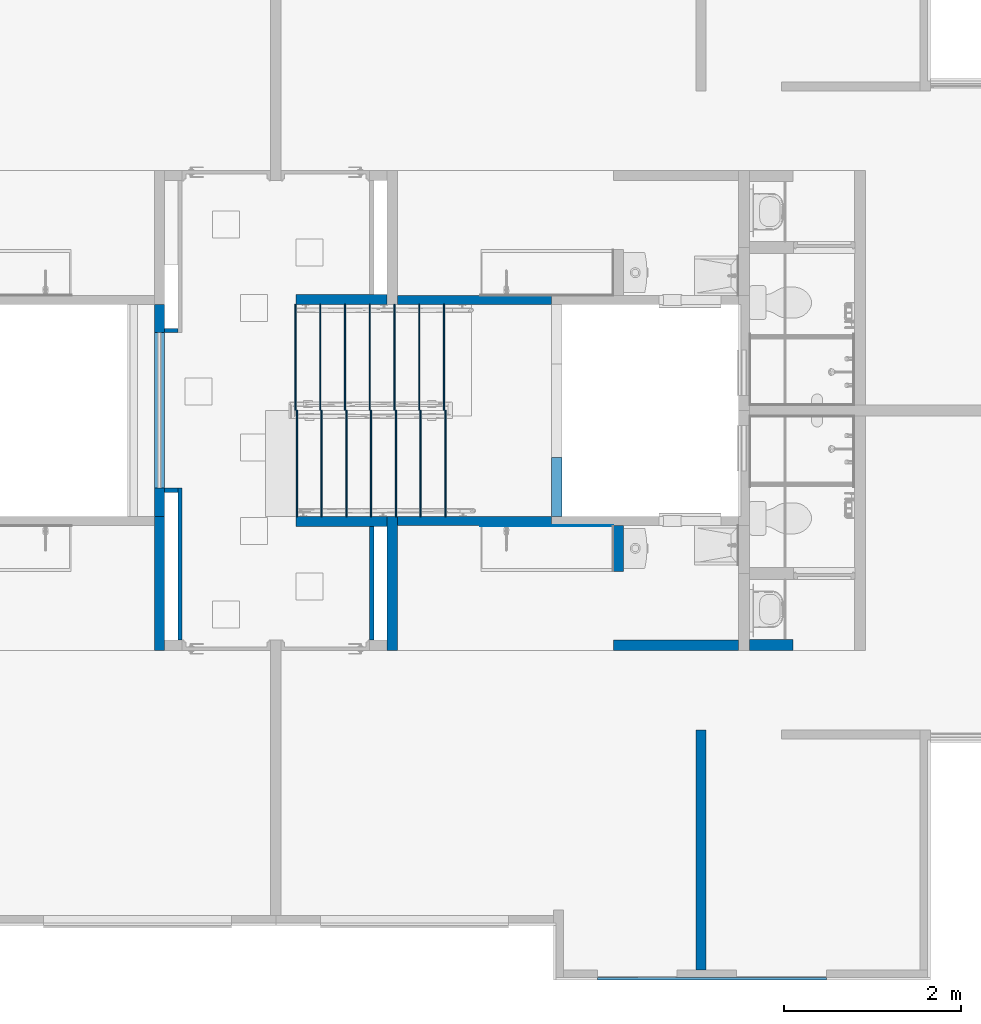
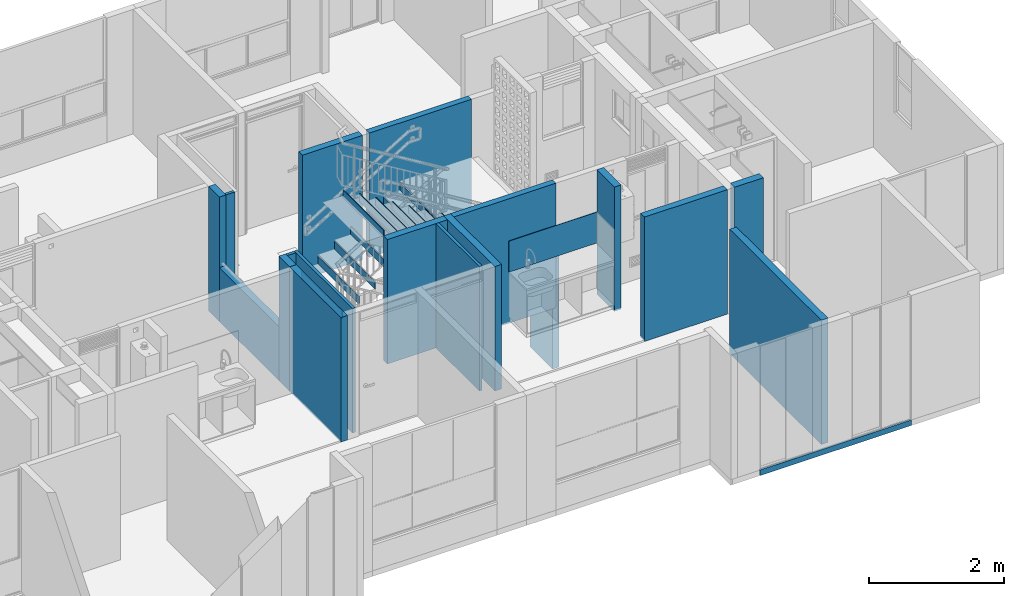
# One storey, part 15 of 51: 34 walls.
"""IFC4 building model written with IfcOpenShell, lengths in metres."""

from ifc_helpers import new_model, entity, si_unit, converted_unit, derived_unit, direction, frame, origin, place, context, subcontext, project, spatial, indexed_curve, outline, extrude, material, constituent, constituent_set, type_object, element, save


model = new_model("IFC4")

# Units and contexts
model_context = context("Model", 3, precision=1e-05, world=origin(), true_north=direction((6.123031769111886e-17, 1.0)))
body_context = subcontext(model_context, "Body", "Model", "MODEL_VIEW")
ifc_project = project(units=[si_unit("LENGTHUNIT", "METRE"), si_unit("AREAUNIT", "SQUARE_METRE"), si_unit("VOLUMEUNIT", "CUBIC_METRE"), converted_unit("PLANEANGLEUNIT", "DEGREE", entity("IfcRatioMeasure", 0.017453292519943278), si_unit("PLANEANGLEUNIT", "RADIAN"), dimensions=[0, 0, 0, 0, 0, 0, 0]), si_unit("MASSUNIT", "GRAM", prefix="KILO"), derived_unit("MASSDENSITYUNIT", [(si_unit("MASSUNIT", "GRAM", prefix="KILO"), 1), (si_unit("LENGTHUNIT", "METRE"), -3)]), derived_unit("IONCONCENTRATIONUNIT", [(si_unit("MASSUNIT", "GRAM", prefix="KILO"), 1), (si_unit("LENGTHUNIT", "METRE"), -3)]), derived_unit("MOMENTOFINERTIAUNIT", [(si_unit("LENGTHUNIT", "METRE"), 4)]), si_unit("TIMEUNIT", "SECOND"), si_unit("FREQUENCYUNIT", "HERTZ"), si_unit("THERMODYNAMICTEMPERATUREUNIT", "DEGREE_CELSIUS"), derived_unit("THERMALTRANSMITTANCEUNIT", [(si_unit("MASSUNIT", "GRAM", prefix="KILO"), 1), (si_unit("THERMODYNAMICTEMPERATUREUNIT", "KELVIN"), -1), (si_unit("TIMEUNIT", "SECOND"), -3)]), derived_unit("THERMALCONDUCTANCEUNIT", [(si_unit("MASSUNIT", "GRAM", prefix="KILO"), 1), (si_unit("THERMODYNAMICTEMPERATUREUNIT", "KELVIN"), -1), (si_unit("TIMEUNIT", "SECOND"), -3), (si_unit("LENGTHUNIT", "METRE"), 1)]), derived_unit("VOLUMETRICFLOWRATEUNIT", [(si_unit("LENGTHUNIT", "METRE"), 3), (si_unit("TIMEUNIT", "SECOND"), -1)]), derived_unit("MASSFLOWRATEUNIT", [(si_unit("MASSUNIT", "GRAM", prefix="KILO"), 1), (si_unit("TIMEUNIT", "SECOND"), -1)]), derived_unit("ROTATIONALFREQUENCYUNIT", [(si_unit("TIMEUNIT", "SECOND"), -1)]), si_unit("ELECTRICCURRENTUNIT", "AMPERE"), si_unit("ELECTRICVOLTAGEUNIT", "VOLT"), si_unit("POWERUNIT", "WATT"), si_unit("FORCEUNIT", "NEWTON", prefix="KILO"), si_unit("ILLUMINANCEUNIT", "LUX"), si_unit("LUMINOUSFLUXUNIT", "LUMEN"), si_unit("LUMINOUSINTENSITYUNIT", "CANDELA"), derived_unit("USERDEFINED", [(si_unit("MASSUNIT", "GRAM", prefix="KILO"), -1), (si_unit("LENGTHUNIT", "METRE"), -2), (si_unit("TIMEUNIT", "SECOND"), 3), (si_unit("LUMINOUSFLUXUNIT", "LUMEN"), 1)]), derived_unit("USERDEFINED", [(si_unit("MASSUNIT", "GRAM", prefix="KILO"), 1), (si_unit("TIMEUNIT", "SECOND"), -3), (si_unit("LENGTHUNIT", "METRE"), 3), (si_unit("ELECTRICCURRENTUNIT", "AMPERE"), -2)]), derived_unit("SOUNDPOWERUNIT", [(si_unit("MASSUNIT", "GRAM", prefix="KILO"), 1), (si_unit("TIMEUNIT", "SECOND"), -3), (si_unit("LENGTHUNIT", "METRE"), 2)]), derived_unit("SOUNDPRESSUREUNIT", [(si_unit("MASSUNIT", "GRAM", prefix="KILO"), 1), (si_unit("LENGTHUNIT", "METRE"), -1), (si_unit("TIMEUNIT", "SECOND"), -2)]), derived_unit("LINEARVELOCITYUNIT", [(si_unit("LENGTHUNIT", "METRE"), 1), (si_unit("TIMEUNIT", "SECOND"), -1)]), si_unit("PRESSUREUNIT", "PASCAL"), derived_unit("USERDEFINED", [(si_unit("MASSUNIT", "GRAM", prefix="KILO"), 1), (si_unit("LENGTHUNIT", "METRE"), -2), (si_unit("TIMEUNIT", "SECOND"), -2)]), derived_unit("LINEARFORCEUNIT", [(si_unit("MASSUNIT", "GRAM", prefix="KILO"), 1), (si_unit("TIMEUNIT", "SECOND"), -2)]), derived_unit("PLANARFORCEUNIT", [(si_unit("MASSUNIT", "GRAM", prefix="KILO"), 1), (si_unit("LENGTHUNIT", "METRE"), -1), (si_unit("TIMEUNIT", "SECOND"), -2)]), derived_unit("SPECIFICHEATCAPACITYUNIT", [(si_unit("THERMODYNAMICTEMPERATUREUNIT", "KELVIN"), -1), (si_unit("LENGTHUNIT", "METRE"), 2), (si_unit("TIMEUNIT", "SECOND"), -2)]), derived_unit("HEATINGVALUEUNIT", [(si_unit("LENGTHUNIT", "METRE"), 2), (si_unit("TIMEUNIT", "SECOND"), -2)]), derived_unit("VAPORPERMEABILITYUNIT", [(si_unit("LENGTHUNIT", "METRE"), -1), (si_unit("TIMEUNIT", "SECOND"), 1)]), derived_unit("DYNAMICVISCOSITYUNIT", [(si_unit("MASSUNIT", "GRAM", prefix="KILO"), 1), (si_unit("TIMEUNIT", "SECOND"), -1), (si_unit("LENGTHUNIT", "METRE"), -1)]), derived_unit("THERMALEXPANSIONCOEFFICIENTUNIT", [(si_unit("THERMODYNAMICTEMPERATUREUNIT", "KELVIN"), -1)]), derived_unit("MODULUSOFELASTICITYUNIT", [(si_unit("MASSUNIT", "GRAM", prefix="KILO"), 1), (si_unit("LENGTHUNIT", "METRE"), -1), (si_unit("TIMEUNIT", "SECOND"), -2)]), derived_unit("ISOTHERMALMOISTURECAPACITYUNIT", [(si_unit("LENGTHUNIT", "METRE"), 3), (si_unit("MASSUNIT", "GRAM", prefix="KILO"), -1)]), derived_unit("MOISTUREDIFFUSIVITYUNIT", [(si_unit("TIMEUNIT", "SECOND"), -1), (si_unit("LENGTHUNIT", "METRE"), 2)])], contexts=[model_context])

# Site, building, storey
site_placement = place(None, origin())
site = spatial("IfcSite", under=ifc_project, at=site_placement, Name="Default", CompositionType="ELEMENT")
building_placement = place(site_placement, origin())
building = spatial("IfcBuilding", under=site, at=building_placement, CompositionType="ELEMENT")
storey_placement = place(building_placement, frame((0.0, 0.0, 2.350000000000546)))
storey = spatial("IfcBuildingStorey", under=building, at=storey_placement, Name="Nivel 2", CompositionType="ELEMENT", Elevation=2.350000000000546)

# Walls
ifc_material_1 = material(Name="Ladrillo claro (Aire)", Category="Materials")
wall_type_1 = type_object("IfcWallType", Name="Basic Wall:B2010 - 0.115m - Muro interior en mampostería - Ladrillo", PredefinedType="STANDARD")
wall_1_placement = place(storey_placement, frame((14.135000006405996, -12.75500003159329, 0.0), z_axis=(0.0, 0.0, 1.0), x_axis=(0.0, 1.0, 0.0)))
element("IfcWall", 1, at=wall_1_placement, inside=storey, type_object=wall_type_1, material=ifc_material_1, Name="Basic Wall:B2010 - 0.115m - Muro interior en mampostería - Ladrillo", ObjectType="Basic Wall:B2010 - 0.115m - Muro interior en mampostería - Ladrillo", PredefinedType="NOTDEFINED", context=body_context, shape_type="SweptSolid", body=[
    extrude(outline(indexed_curve([(2.715000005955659, 0.05750000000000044), (8.08167206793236e-17, 0.057499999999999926), (-8.08167206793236e-17, -0.057499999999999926), (2.715000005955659, -0.057499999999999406), (2.715000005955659, 0.05750000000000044)], self_intersect=False)), origin(), (0.0, 0.0, 1.0), 2.2499999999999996),
])
wall_2_placement = place(storey_placement, frame((14.557500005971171, -9.082499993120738, 0.0), z_axis=(0.0, 0.0, 1.0), x_axis=(-1.0, 0.0, 0.0)))
element("IfcWall", 2, at=wall_2_placement, inside=storey, type_object=wall_type_1, material=ifc_material_1, Name="Basic Wall:B2010 - 0.115m - Muro interior en mampostería - Ladrillo", ObjectType="Basic Wall:B2010 - 0.115m - Muro interior en mampostería - Ladrillo", PredefinedType="NOTDEFINED", context=body_context, shape_type="SweptSolid", body=[
    extrude(outline(indexed_curve([(1.4149999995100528, 0.05750000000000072), (-5.604877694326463e-16, 0.057499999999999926), (5.604877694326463e-16, -0.057499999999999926), (1.414999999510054, -0.05749999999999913), (1.4149999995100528, 0.05750000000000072)], self_intersect=False)), origin(), (0.0, 0.0, 1.0), 2.2499999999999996),
])
wall_3_placement = place(storey_placement, frame((10.639999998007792, -7.625000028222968, 0.0), z_axis=(0.0, 0.0, 1.0), x_axis=(0.0, -1.0, 0.0)))
element("IfcWall", 3, at=wall_3_placement, inside=storey, type_object=wall_type_1, material=ifc_material_1, Name="Basic Wall:B2010 - 0.115m - Muro interior en mampostería - Ladrillo", ObjectType="Basic Wall:B2010 - 0.115m - Muro interior en mampostería - Ladrillo", PredefinedType="NOTDEFINED", context=body_context, shape_type="SweptSolid", body=[
    extrude(outline(indexed_curve([(1.5150000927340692, 0.05750000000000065), (-2.7419363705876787e-16, 0.057499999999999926), (2.7419363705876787e-16, -0.057499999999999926), (1.5150000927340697, -0.0574999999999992), (1.5150000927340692, 0.05750000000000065)], self_intersect=False)), origin(), (0.0, 0.0, 1.0), 2.2499999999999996),
])
wall_4_placement = place(storey_placement, frame((12.500000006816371, -7.62450002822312, -1.1750000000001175), z_axis=(0.0, 0.0, 1.0), x_axis=(0.0, 1.0, 0.0)))
element("IfcWall", 4, at=wall_4_placement, inside=storey, type_object=wall_type_1, material=ifc_material_1, Name="Basic Wall:B2010 - 0.115m - Muro interior en mampostería - Ladrillo", ObjectType="Basic Wall:B2010 - 0.115m - Muro interior en mampostería - Ladrillo", PredefinedType="NOTDEFINED", context=body_context, shape_type="SweptSolid", body=[
    extrude(outline(indexed_curve([(0.669594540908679, 0.05749999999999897), (-1.0377476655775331e-16, 0.057499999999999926), (1.0377476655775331e-16, -0.057499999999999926), (0.6695945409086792, -0.05750000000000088), (0.669594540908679, 0.05749999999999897)], self_intersect=False)), origin(), (0.0, 0.0, 1.0), 2.2300000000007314),
])
wall_5_placement = place(storey_placement, frame((8.00500000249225, -7.6250000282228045, 0.0), z_axis=(0.0, 0.0, 1.0), x_axis=(0.0, -1.0, 0.0)))
element("IfcWall", 5, at=wall_5_placement, inside=storey, type_object=wall_type_1, material=ifc_material_1, Name="Basic Wall:B2010 - 0.115m - Muro interior en mampostería - Ladrillo", ObjectType="Basic Wall:B2010 - 0.115m - Muro interior en mampostería - Ladrillo", PredefinedType="NOTDEFINED", context=body_context, shape_type="SweptSolid", body=[
    extrude(outline(indexed_curve([(1.5150000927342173, 0.05750000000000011), (-4.5913366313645e-16, 0.057499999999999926), (4.5913366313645e-16, -0.057499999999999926), (1.5150000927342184, -0.05749999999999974), (1.5150000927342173, 0.05750000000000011)], self_intersect=False)), origin(), (0.0, 0.0, 1.0), 2.2500000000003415),
])
ifc_material_2 = material(Name="Pañete", Category="Materials")
ifc_constituent_1 = constituent(ifc_material_2, Name="Pañete", Category="Materials")
ifc_constituent_2 = constituent(ifc_material_1, Name="Ladrillo claro (Aire)", Category="Materials")
ifc_constituent_set_1 = constituent_set(constituents=[ifc_constituent_1, ifc_constituent_2], Name="Basic Wall:B2010 - 0.115m - Muro interior en mampostería - Ladrillo + Pañete")
wall_type_2 = type_object("IfcWallType", Name="Basic Wall:B2010 - 0.115m - Muro interior en mampostería - Ladrillo + Pañete", PredefinedType="STANDARD", material=ifc_constituent_set_1)
wall_6_placement = place(storey_placement, frame((15.172500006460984, -9.07749999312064, 0.0), z_axis=(0.0, 0.0, 1.0), x_axis=(-1.0, 0.0, 0.0)))
element("IfcWall", 6, at=wall_6_placement, inside=storey, type_object=wall_type_2, material=ifc_constituent_set_1, Name="Basic Wall:B2010 - 0.115m - Muro interior en mampostería - Ladrillo + Pañete", ObjectType="Basic Wall:B2010 - 0.115m - Muro interior en mampostería - Ladrillo + Pañete", PredefinedType="NOTDEFINED", context=body_context, shape_type="SweptSolid", body=[
    extrude(outline(indexed_curve([(-0.005000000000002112, -0.24500000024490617), (0.0049999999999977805, -0.24500000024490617), (0.005000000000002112, 0.24500000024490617), (-0.0049999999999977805, 0.24500000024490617), (-0.005000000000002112, -0.24500000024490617)], self_intersect=False)), frame((0.24500000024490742, -0.057499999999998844, 0.0), z_axis=(0.0, 0.0, 1.0), x_axis=(0.0, 1.0, 0.0)), (0.0, 0.0, 1.0), 2.250000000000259),
    extrude(outline(indexed_curve([(-0.05749999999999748, -0.24500000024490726), (0.05750000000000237, -0.24500000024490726), (0.05749999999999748, 0.2450000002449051), (-0.05750000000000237, 0.24500000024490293), (-0.05749999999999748, -0.24500000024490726)], self_intersect=False)), frame((0.245000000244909, 0.005000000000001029, 0.0), z_axis=(0.0, 0.0, 1.0), x_axis=(0.0, -1.0, 0.0)), (0.0, 0.0, 1.0), 2.250000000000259),
])
ifc_material_3 = material(Name="LADRILLO CLARO", Category="Materials")
wall_type_3 = type_object("IfcWallType", Name="Basic Wall:B2010 - 0.115m - MI mampostería no estructural - Ladrillo", PredefinedType="STANDARD")
wall_7_placement = place(storey_placement, frame((8.00500000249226, -5.545000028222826, 0.0), z_axis=(0.0, 0.0, 1.0), x_axis=(0.0, 1.0, 0.0)))
element("IfcWall", 7, at=wall_7_placement, inside=storey, type_object=wall_type_3, material=ifc_material_3, Name="Basic Wall:B2010 - 0.115m - MI mampostería no estructural - Ladrillo", ObjectType="Basic Wall:B2010 - 0.115m - MI mampostería no estructural - Ladrillo", PredefinedType="NOTDEFINED", context=body_context, shape_type="SweptSolid", body=[
    extrude(outline(indexed_curve([(0.3200000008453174, 0.05750000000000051), (9.033989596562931e-17, 0.057499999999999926), (-9.033989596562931e-17, -0.057499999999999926), (0.3200000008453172, -0.057499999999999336), (0.3200000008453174, 0.05750000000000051)], self_intersect=False)), origin(), (0.0, 0.0, 1.0), 2.2500000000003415),
])
wall_8_placement = place(storey_placement, frame((8.005000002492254, -7.305000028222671, 0.0), z_axis=(0.0, 0.0, 1.0), x_axis=(0.0, -1.0, 0.0)))
element("IfcWall", 8, at=wall_8_placement, inside=storey, type_object=wall_type_3, material=ifc_material_3, Name="Basic Wall:B2010 - 0.115m - MI mampostería no estructural - Ladrillo", ObjectType="Basic Wall:B2010 - 0.115m - MI mampostería no estructural - Ladrillo", PredefinedType="NOTDEFINED", context=body_context, shape_type="SweptSolid", body=[
    extrude(outline(indexed_curve([(0.3200000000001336, 0.05749999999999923), (-4.5913366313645e-16, 0.057499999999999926), (4.5913366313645e-16, -0.057499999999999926), (0.32000000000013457, -0.05750000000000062), (0.3200000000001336, 0.05749999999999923)], self_intersect=False)), origin(), (0.0, 0.0, 1.0), 2.2500000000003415),
])
wall_9_placement = place(storey_placement, frame((8.005000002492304, -5.545000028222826, 0.0), z_axis=(0.0, 0.0, 1.0), x_axis=(0.0, -1.0, 0.0)))
element("IfcWall", 9, at=wall_9_placement, inside=storey, type_object=wall_type_3, material=ifc_material_3, Name="Basic Wall:B2010 - 0.115m - MI mampostería no estructural - Ladrillo", ObjectType="Basic Wall:B2010 - 0.115m - MI mampostería no estructural - Ladrillo", PredefinedType="NOTDEFINED", context=body_context, shape_type="SweptSolid", body=[
    extrude(outline(indexed_curve([(1.7599999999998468, 0.05750000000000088), (-1.0186480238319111e-16, 0.057499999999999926), (1.0186480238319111e-16, -0.057499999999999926), (1.7599999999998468, -0.05749999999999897), (1.7599999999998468, 0.05750000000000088)], self_intersect=False)), origin(), (0.0, 0.0, 1.0), 0.9749999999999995),
])
wall_10_placement = place(storey_placement, frame((13.200000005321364, -8.245000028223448, 0.0), z_axis=(0.0, 0.0, 1.0), x_axis=(0.0, 1.0, 0.0)))
element("IfcWall", 10, at=wall_10_placement, inside=storey, type_object=wall_type_3, material=ifc_material_3, Name="Basic Wall:B2010 - 0.115m - MI mampostería no estructural - Ladrillo", ObjectType="Basic Wall:B2010 - 0.115m - MI mampostería no estructural - Ladrillo", PredefinedType="NOTDEFINED", context=body_context, shape_type="SweptSolid", body=[
    extrude(outline(indexed_curve([(0.5195000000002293, 0.057499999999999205), (-1.6027407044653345e-16, 0.057499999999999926), (1.6027407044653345e-16, -0.057499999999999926), (0.5195000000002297, -0.05750000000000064), (0.5195000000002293, 0.057499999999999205)], self_intersect=False)), origin(), (0.0, 0.0, 1.0), 2.2500000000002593),
])
ifc_material_4 = material(Name="0 muro divisorio", Category="Materials")
wall_type_4 = type_object("IfcWallType", Name="Basic Wall:B2010 - 0.05m - MI No estructural- Concreto", PredefinedType="STANDARD")
wall_11_placement = place(storey_placement, frame((8.212500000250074, -5.520000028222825, 0.0), z_axis=(0.0, 0.0, 1.0), x_axis=(-1.0, 0.0, 0.0)))
element("IfcWall", 11, at=wall_11_placement, inside=storey, type_object=wall_type_4, material=ifc_material_4, Name="Basic Wall:B2010 - 0.05m - MI No estructural- Concreto", ObjectType="Basic Wall:B2010 - 0.05m - MI No estructural- Concreto", PredefinedType="NOTDEFINED", context=body_context, shape_type="SweptSolid", body=[
    extrude(outline(indexed_curve([(0.14999999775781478, 0.02499999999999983), (-1.6892508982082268e-17, 0.02499999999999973), (1.6892508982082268e-17, -0.02499999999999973), (0.1499999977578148, -0.02499999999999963), (0.14999999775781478, 0.02499999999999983)], self_intersect=False)), origin(), (0.0, 0.0, 1.0), 2.2499999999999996),
])
wall_12_placement = place(storey_placement, frame((8.237500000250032, -7.305000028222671, 0.0), z_axis=(0.0, 0.0, 1.0), x_axis=(0.0, -1.0, 0.0)))
element("IfcWall", 12, at=wall_12_placement, inside=storey, type_object=wall_type_4, material=ifc_material_4, Name="Basic Wall:B2010 - 0.05m - MI No estructural- Concreto", ObjectType="Basic Wall:B2010 - 0.05m - MI No estructural- Concreto", PredefinedType="NOTDEFINED", context=body_context, shape_type="SweptSolid", body=[
    extrude(outline(indexed_curve([(1.719999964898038, 0.02499999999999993), (-3.4343744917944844e-17, 0.02499999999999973), (3.4343744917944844e-17, -0.02499999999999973), (1.719999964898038, -0.024999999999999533), (1.719999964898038, 0.02499999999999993)], self_intersect=False)), origin(), (0.0, 0.0, 1.0), 2.2499999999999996),
])
wall_13_placement = place(storey_placement, frame((8.212500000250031, -7.330000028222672, 0.0), z_axis=(0.0, 0.0, 1.0), x_axis=(-1.0, 0.0, 0.0)))
element("IfcWall", 13, at=wall_13_placement, inside=storey, type_object=wall_type_4, material=ifc_material_4, Name="Basic Wall:B2010 - 0.05m - MI No estructural- Concreto", ObjectType="Basic Wall:B2010 - 0.05m - MI No estructural- Concreto", PredefinedType="NOTDEFINED", context=body_context, shape_type="SweptSolid", body=[
    extrude(outline(indexed_curve([(0.14999999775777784, 0.02499999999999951), (-1.4345260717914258e-16, 0.02499999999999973), (1.4345260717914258e-16, -0.02499999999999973), (0.14999999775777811, -0.024999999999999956), (0.14999999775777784, 0.02499999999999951)], self_intersect=False)), origin(), (0.0, 0.0, 1.0), 2.2499999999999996),
])
wall_14_placement = place(storey_placement, frame((10.407500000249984, -7.740000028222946, 0.0), z_axis=(0.0, 0.0, 1.0), x_axis=(0.0, -1.0, 0.0)))
element("IfcWall", 14, at=wall_14_placement, inside=storey, type_object=wall_type_4, material=ifc_material_4, Name="Basic Wall:B2010 - 0.05m - MI No estructural- Concreto", ObjectType="Basic Wall:B2010 - 0.05m - MI No estructural- Concreto", PredefinedType="NOTDEFINED", context=body_context, shape_type="SweptSolid", body=[
    extrude(outline(indexed_curve([(1.2849999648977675, 0.025000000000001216), (3.434374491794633e-17, 0.025000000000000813), (-3.434374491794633e-17, -0.025000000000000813), (1.2849999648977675, -0.02500000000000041), (1.2849999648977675, 0.025000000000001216)], self_intersect=False)), origin(), (0.0, 0.0, 1.0), 2.2499999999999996),
])
ifc_material_5 = material(Name="Ceramica Salpicadero 0.28m x 0.45m", Category="Materials")
wall_type_5 = type_object("IfcWallType", Name="Basic Wall:C2010 - 0.28 x 0.45 - Salpicadero - Cerámica", PredefinedType="STANDARD")
wall_15_placement = place(storey_placement, frame((13.142500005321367, -7.730000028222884, 0.9300000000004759), z_axis=(0.0, 0.0, 1.0), x_axis=(-1.0, 0.0, 0.0)))
element("IfcWall", 15, at=wall_15_placement, inside=storey, type_object=wall_type_5, material=ifc_material_5, Name="Basic Wall:C2010 - 0.28 x 0.45 - Salpicadero - Cerámica", ObjectType="Basic Wall:C2010 - 0.28 x 0.45 - Salpicadero - Cerámica", PredefinedType="NOTDEFINED", context=body_context, shape_type="SweptSolid", body=[
    extrude(outline(indexed_curve([(1.509999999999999, 0.004999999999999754), (-4.956090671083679e-17, 0.004999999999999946), (4.956090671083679e-17, -0.004999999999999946), (1.509999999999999, -0.005000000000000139), (1.509999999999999, 0.004999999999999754)], self_intersect=False)), origin(), (0.0, 0.0, 1.0), 0.5599999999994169),
])
wall_type_6 = type_object("IfcWallType", Name="Basic Wall:B2010 - 0.03m - ME enchape  no estructural - Ladrillo", PredefinedType="STANDARD")
wall_16_placement = place(storey_placement, frame((12.962500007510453, -12.855000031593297, -0.10000000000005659)))
element("IfcWall", 16, at=wall_16_placement, inside=storey, type_object=wall_type_6, material=ifc_material_3, Name="Basic Wall:B2010 - 0.03m - ME enchape  no estructural - Ladrillo", ObjectType="Basic Wall:B2010 - 0.03m - ME enchape  no estructural - Ladrillo", PredefinedType="NOTDEFINED", context=body_context, shape_type="SweptSolid", body=[
    extrude(outline(indexed_curve([(2.5899999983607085, 0.015000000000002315), (-4.570130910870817e-17, 0.015000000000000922), (4.570130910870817e-17, -0.015000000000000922), (2.5899999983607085, -0.014999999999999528), (2.5899999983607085, 0.015000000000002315)], self_intersect=False)), origin(), (0.0, 0.0, 1.0), 0.1),
])
ifc_material_6 = material(Name="Pintura blanca", Category="Materials")
ifc_constituent_3 = constituent(ifc_material_6, Name="Pintura blanca", Category="Materials")
ifc_material_7 = material(Name="Concreto (Aire)", Category="Materials")
ifc_constituent_4 = constituent(ifc_material_7, Name="Concreto (Aire)", Category="Materials")
ifc_constituent_set_2 = constituent_set(constituents=[ifc_constituent_3, ifc_constituent_4], Name="Basic Wall:B2010 - 0.10m - MI Concreto- Concreto+ Pintura")
wall_type_7 = type_object("IfcWallType", Name="Basic Wall:B2010 - 0.10m - MI Concreto- Concreto+ Pintura", PredefinedType="STANDARD", material=ifc_constituent_set_2)
wall_17_placement = place(storey_placement, frame((10.69749999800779, -7.675000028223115, 0.0)))
element("IfcWall", 17, at=wall_17_placement, inside=storey, type_object=wall_type_7, material=ifc_constituent_set_2, Name="Basic Wall:B2010 - 0.10m - MI Concreto- Concreto+ Pintura", ObjectType="Basic Wall:B2010 - 0.10m - MI Concreto- Concreto+ Pintura", PredefinedType="NOTDEFINED", context=body_context, shape_type="SweptSolid", body=[
    extrude(outline(indexed_curve([(-0.8725000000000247, -0.0005000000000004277), (0.8725000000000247, -0.0005000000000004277), (0.8725000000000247, 0.0005000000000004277), (-0.8725000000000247, 0.0005000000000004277), (-0.8725000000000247, -0.0005000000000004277)], self_intersect=False)), frame((0.8725000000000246, 0.04999999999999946, 0.0)), (0.0, 0.0, 1.0), 2.250000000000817),
    extrude(outline(indexed_curve([(-0.05000000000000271, -0.8725000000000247), (0.049999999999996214, -0.8725000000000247), (0.050000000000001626, 0.8725000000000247), (-0.0499999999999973, 0.8725000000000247), (-0.05000000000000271, -0.8725000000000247)], self_intersect=False)), frame((0.8725000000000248, -0.0004999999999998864, 0.0), z_axis=(0.0, 0.0, 1.0), x_axis=(0.0, 1.0, 0.0)), (0.0, 0.0, 1.0), 2.250000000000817),
])
wall_18_placement = place(storey_placement, frame((10.6974999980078, -5.175000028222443, 0.0)))
element("IfcWall", 18, at=wall_18_placement, inside=storey, type_object=wall_type_7, material=ifc_constituent_set_2, Name="Basic Wall:B2010 - 0.10m - MI Concreto- Concreto+ Pintura", ObjectType="Basic Wall:B2010 - 0.10m - MI Concreto- Concreto+ Pintura", PredefinedType="NOTDEFINED", context=body_context, shape_type="SweptSolid", body=[
    extrude(outline(indexed_curve([(-0.000500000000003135, -0.8725000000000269), (0.0004999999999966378, -0.8725000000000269), (0.0005000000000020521, 0.8725000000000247), (-0.0004999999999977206, 0.8725000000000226), (-0.000500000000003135, -0.8725000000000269)], self_intersect=False)), frame((0.8725000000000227, -0.04999999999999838, 0.0), z_axis=(0.0, 0.0, 1.0), x_axis=(0.0, 1.0, 0.0)), (0.0, 0.0, 1.0), 2.250000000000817),
    extrude(outline(indexed_curve([(-0.05000000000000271, -0.8725000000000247), (0.0499999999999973, -0.8725000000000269), (0.05000000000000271, 0.8725000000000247), (-0.0499999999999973, 0.8725000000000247), (-0.05000000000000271, -0.8725000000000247)], self_intersect=False)), frame((0.8725000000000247, 0.0005000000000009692, 0.0), z_axis=(0.0, 0.0, 1.0), x_axis=(0.0, -1.0, 0.0)), (0.0, 0.0, 1.0), 2.250000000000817),
])
ifc_material_8 = material(Name="PISO GRES SAHARA 30X30", Category="Materials")
wall_type_8 = type_object("IfcWallType", Name="Basic Wall:B2010 - 0.015-Enchape- Gres", PredefinedType="STANDARD")
wall_19_placement = place(storey_placement, frame((9.545000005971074, -5.225000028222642, 0.03000000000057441), z_axis=(0.0, 0.0, 1.0), x_axis=(0.0, -1.0, 0.0)))
element("IfcWall", 19, at=wall_19_placement, inside=storey, type_object=wall_type_8, material=ifc_material_8, Name="Basic Wall:B2010 - 0.015-Enchape- Gres", ObjectType="Basic Wall:B2010 - 0.015-Enchape- Gres", PredefinedType="NOTDEFINED", context=body_context, shape_type="SweptSolid", body=[
    extrude(outline(indexed_curve([(1.1999999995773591, 0.007500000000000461), (-1.3535839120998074e-17, 0.007500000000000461), (1.3535839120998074e-17, -0.007500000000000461), (1.1999999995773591, -0.007500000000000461), (1.1999999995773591, 0.007500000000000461)], self_intersect=False)), origin(), (0.0, 0.0, 1.0), 0.137857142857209),
])
wall_20_placement = place(storey_placement, frame((9.825000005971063, -5.22500002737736, 0.19785714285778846), z_axis=(0.0, 0.0, 1.0), x_axis=(0.0, -1.0, 0.0)))
element("IfcWall", 20, at=wall_20_placement, inside=storey, type_object=wall_type_8, material=ifc_material_8, Name="Basic Wall:B2010 - 0.015-Enchape- Gres", ObjectType="Basic Wall:B2010 - 0.015-Enchape- Gres", PredefinedType="NOTDEFINED", context=body_context, shape_type="SweptSolid", body=[
    extrude(outline(indexed_curve([(1.200000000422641, 0.007500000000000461), (0.0, 0.007500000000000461), (0.0, -0.007500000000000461), (1.200000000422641, -0.007500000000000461), (1.200000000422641, 0.007500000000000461)], self_intersect=False)), origin(), (0.0, 0.0, 1.0), 0.13785714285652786),
])
wall_21_placement = place(storey_placement, frame((10.10500000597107, -5.22500002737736, 0.3657142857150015), z_axis=(0.0, 0.0, 1.0), x_axis=(0.0, -1.0, 0.0)))
element("IfcWall", 21, at=wall_21_placement, inside=storey, type_object=wall_type_8, material=ifc_material_8, Name="Basic Wall:B2010 - 0.015-Enchape- Gres", ObjectType="Basic Wall:B2010 - 0.015-Enchape- Gres", PredefinedType="NOTDEFINED", context=body_context, shape_type="SweptSolid", body=[
    extrude(outline(indexed_curve([(1.200000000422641, 0.007500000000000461), (0.0, 0.007500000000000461), (0.0, -0.007500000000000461), (1.200000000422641, -0.007500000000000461), (1.200000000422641, 0.007500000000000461)], self_intersect=False)), origin(), (0.0, 0.0, 1.0), 0.13785714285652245),
])
wall_22_placement = place(storey_placement, frame((10.385000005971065, -5.22500002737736, 0.5335714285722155), z_axis=(0.0, 0.0, 1.0), x_axis=(0.0, -1.0, 0.0)))
element("IfcWall", 22, at=wall_22_placement, inside=storey, type_object=wall_type_8, material=ifc_material_8, Name="Basic Wall:B2010 - 0.015-Enchape- Gres", ObjectType="Basic Wall:B2010 - 0.015-Enchape- Gres", PredefinedType="NOTDEFINED", context=body_context, shape_type="SweptSolid", body=[
    extrude(outline(indexed_curve([(1.200000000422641, 0.007500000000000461), (-2.7071678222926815e-17, 0.007500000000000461), (2.7071678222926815e-17, -0.007500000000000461), (1.200000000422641, -0.007500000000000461), (1.200000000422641, 0.007500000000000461)], self_intersect=False)), origin(), (0.0, 0.0, 1.0), 0.13785714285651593),
])
wall_23_placement = place(storey_placement, frame((10.665000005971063, -5.225000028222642, 0.7014285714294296), z_axis=(0.0, 0.0, 1.0), x_axis=(0.0, -1.0, 0.0)))
element("IfcWall", 23, at=wall_23_placement, inside=storey, type_object=wall_type_8, material=ifc_material_8, Name="Basic Wall:B2010 - 0.015-Enchape- Gres", ObjectType="Basic Wall:B2010 - 0.015-Enchape- Gres", PredefinedType="NOTDEFINED", context=body_context, shape_type="SweptSolid", body=[
    extrude(outline(indexed_curve([(1.1999999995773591, 0.007500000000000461), (-1.3535839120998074e-17, 0.007500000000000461), (1.3535839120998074e-17, -0.007500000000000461), (1.1999999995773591, -0.007500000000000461), (1.1999999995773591, 0.007500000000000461)], self_intersect=False)), origin(), (0.0, 0.0, 1.0), 0.13785714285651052),
])
wall_24_placement = place(storey_placement, frame((10.945000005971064, -5.22500002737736, 0.8692857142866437), z_axis=(0.0, 0.0, 1.0), x_axis=(0.0, -1.0, 0.0)))
element("IfcWall", 24, at=wall_24_placement, inside=storey, type_object=wall_type_8, material=ifc_material_8, Name="Basic Wall:B2010 - 0.015-Enchape- Gres", ObjectType="Basic Wall:B2010 - 0.015-Enchape- Gres", PredefinedType="NOTDEFINED", context=body_context, shape_type="SweptSolid", body=[
    extrude(outline(indexed_curve([(1.200000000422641, 0.007500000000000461), (0.0, 0.007500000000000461), (0.0, -0.007500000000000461), (1.200000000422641, -0.007500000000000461), (1.200000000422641, 0.007500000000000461)], self_intersect=False)), origin(), (0.0, 0.0, 1.0), 0.1378571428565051),
])
wall_25_placement = place(storey_placement, frame((11.225000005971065, -5.22500002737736, 1.0371428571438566), z_axis=(0.0, 0.0, 1.0), x_axis=(0.0, -1.0, 0.0)))
element("IfcWall", 25, at=wall_25_placement, inside=storey, type_object=wall_type_8, material=ifc_material_8, Name="Basic Wall:B2010 - 0.015-Enchape- Gres", ObjectType="Basic Wall:B2010 - 0.015-Enchape- Gres", PredefinedType="NOTDEFINED", context=body_context, shape_type="SweptSolid", body=[
    extrude(outline(indexed_curve([(1.200000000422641, 0.007500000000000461), (-2.7071678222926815e-17, 0.007500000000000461), (2.7071678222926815e-17, -0.007500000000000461), (1.200000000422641, -0.007500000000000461), (1.200000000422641, 0.007500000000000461)], self_intersect=False)), origin(), (0.0, 0.0, 1.0), 0.1378571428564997),
])
wall_26_placement = place(storey_placement, frame((11.240000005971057, -6.425000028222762, 1.2050000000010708), z_axis=(0.0, 0.0, 1.0), x_axis=(0.0, -1.0, 0.0)))
element("IfcWall", 26, at=wall_26_placement, inside=storey, type_object=wall_type_8, material=ifc_material_8, Name="Basic Wall:B2010 - 0.015-Enchape- Gres", ObjectType="Basic Wall:B2010 - 0.015-Enchape- Gres", PredefinedType="NOTDEFINED", context=body_context, shape_type="SweptSolid", body=[
    extrude(outline(indexed_curve([(1.199999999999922, 0.007500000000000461), (2.7071678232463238e-17, 0.007500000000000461), (-2.7071678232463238e-17, -0.007500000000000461), (1.199999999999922, -0.007500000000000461), (1.199999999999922, 0.007500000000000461)], self_intersect=False)), origin(), (0.0, 0.0, 1.0), 0.13785714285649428),
])
wall_27_placement = place(storey_placement, frame((10.960000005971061, -6.425000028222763, 1.3728571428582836), z_axis=(0.0, 0.0, 1.0), x_axis=(0.0, -1.0, 0.0)))
element("IfcWall", 27, at=wall_27_placement, inside=storey, type_object=wall_type_8, material=ifc_material_8, Name="Basic Wall:B2010 - 0.015-Enchape- Gres", ObjectType="Basic Wall:B2010 - 0.015-Enchape- Gres", PredefinedType="NOTDEFINED", context=body_context, shape_type="SweptSolid", body=[
    extrude(outline(indexed_curve([(1.1999999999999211, 0.007500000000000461), (2.7071678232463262e-17, 0.007500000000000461), (-2.7071678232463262e-17, -0.007500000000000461), (1.1999999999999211, -0.007500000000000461), (1.1999999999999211, 0.007500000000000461)], self_intersect=False)), origin(), (0.0, 0.0, 1.0), 0.13785714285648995),
])
wall_28_placement = place(storey_placement, frame((10.68000000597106, -6.425000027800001, 1.5407142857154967), z_axis=(0.0, 0.0, 1.0), x_axis=(0.0, -1.0, 0.0)))
element("IfcWall", 28, at=wall_28_placement, inside=storey, type_object=wall_type_8, material=ifc_material_8, Name="Basic Wall:B2010 - 0.015-Enchape- Gres", ObjectType="Basic Wall:B2010 - 0.015-Enchape- Gres", PredefinedType="NOTDEFINED", context=body_context, shape_type="SweptSolid", body=[
    extrude(outline(indexed_curve([(1.2000000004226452, 0.007500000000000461), (1.3535839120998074e-17, 0.007500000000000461), (-1.3535839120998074e-17, -0.007500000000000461), (1.2000000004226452, -0.007500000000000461), (1.2000000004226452, 0.007500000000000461)], self_intersect=False)), origin(), (0.0, 0.0, 1.0), 0.13785714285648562),
])
wall_29_placement = place(storey_placement, frame((10.400000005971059, -6.425000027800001, 1.7085714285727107), z_axis=(0.0, 0.0, 1.0), x_axis=(0.0, -1.0, 0.0)))
element("IfcWall", 29, at=wall_29_placement, inside=storey, type_object=wall_type_8, material=ifc_material_8, Name="Basic Wall:B2010 - 0.015-Enchape- Gres", ObjectType="Basic Wall:B2010 - 0.015-Enchape- Gres", PredefinedType="NOTDEFINED", context=body_context, shape_type="SweptSolid", body=[
    extrude(outline(indexed_curve([(1.2000000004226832, 0.007500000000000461), (2.7071678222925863e-17, 0.007500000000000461), (-2.7071678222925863e-17, -0.007500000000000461), (1.2000000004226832, -0.007500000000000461), (1.2000000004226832, 0.007500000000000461)], self_intersect=False)), origin(), (0.0, 0.0, 1.0), 0.13785714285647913),
])
wall_30_placement = place(storey_placement, frame((10.120000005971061, -6.425000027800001, 1.876428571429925), z_axis=(0.0, 0.0, 1.0), x_axis=(0.0, -1.0, 0.0)))
element("IfcWall", 30, at=wall_30_placement, inside=storey, type_object=wall_type_8, material=ifc_material_8, Name="Basic Wall:B2010 - 0.015-Enchape- Gres", ObjectType="Basic Wall:B2010 - 0.015-Enchape- Gres", PredefinedType="NOTDEFINED", context=body_context, shape_type="SweptSolid", body=[
    extrude(outline(indexed_curve([(1.2000000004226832, 0.007500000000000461), (2.7071678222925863e-17, 0.007500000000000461), (-2.7071678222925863e-17, -0.007500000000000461), (1.2000000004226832, -0.007500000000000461), (1.2000000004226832, 0.007500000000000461)], self_intersect=False)), origin(), (0.0, 0.0, 1.0), 0.1378571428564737),
])
wall_31_placement = place(storey_placement, frame((9.840000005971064, -6.425000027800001, 2.044285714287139), z_axis=(0.0, 0.0, 1.0), x_axis=(0.0, -1.0, 0.0)))
element("IfcWall", 31, at=wall_31_placement, inside=storey, type_object=wall_type_8, material=ifc_material_8, Name="Basic Wall:B2010 - 0.015-Enchape- Gres", ObjectType="Basic Wall:B2010 - 0.015-Enchape- Gres", PredefinedType="NOTDEFINED", context=body_context, shape_type="SweptSolid", body=[
    extrude(outline(indexed_curve([(1.2000000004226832, 0.007500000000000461), (2.7071678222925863e-17, 0.007500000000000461), (-2.7071678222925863e-17, -0.007500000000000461), (1.2000000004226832, -0.007500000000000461), (1.2000000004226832, 0.007500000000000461)], self_intersect=False)), origin(), (0.0, 0.0, 1.0), 0.1378571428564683),
])
wall_32_placement = place(storey_placement, frame((9.560000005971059, -6.425000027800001, 2.212142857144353), z_axis=(0.0, 0.0, 1.0), x_axis=(0.0, -1.0, 0.0)))
element("IfcWall", 32, at=wall_32_placement, inside=storey, type_object=wall_type_8, material=ifc_material_8, Name="Basic Wall:B2010 - 0.015-Enchape- Gres", ObjectType="Basic Wall:B2010 - 0.015-Enchape- Gres", PredefinedType="NOTDEFINED", context=body_context, shape_type="SweptSolid", body=[
    extrude(outline(indexed_curve([(1.2000000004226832, 0.007500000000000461), (2.7071678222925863e-17, 0.007500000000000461), (-2.7071678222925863e-17, -0.007500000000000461), (1.2000000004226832, -0.007500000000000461), (1.2000000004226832, 0.007500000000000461)], self_intersect=False)), origin(), (0.0, 0.0, 1.0), 0.13785714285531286),
])
wall_type_9 = type_object("IfcWallType", Name="Basic Wall:B2010 - 0.115m - MI mampostería no estructural - Ladrillo 2", PredefinedType="STANDARD")
wall_33_placement = place(storey_placement, frame((9.552500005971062, -5.1675000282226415, 0.0)))
element("IfcWall", 33, at=wall_33_placement, inside=storey, type_object=wall_type_9, material=ifc_material_3, Name="Basic Wall:B2010 - 0.115m - MI mampostería no estructural - Ladrillo 2", ObjectType="Basic Wall:B2010 - 0.115m - MI mampostería no estructural - Ladrillo 2", PredefinedType="NOTDEFINED", context=body_context, shape_type="SweptSolid", body=[
    extrude(outline(indexed_curve([(1.0299999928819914, 0.057499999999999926), (0.0, 0.057499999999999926), (0.0, -0.057499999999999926), (1.0299999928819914, -0.057499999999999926), (1.0299999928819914, 0.057499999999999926)], self_intersect=False)), origin(), (0.0, 0.0, 1.0), 2.250000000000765),
])
wall_34_placement = place(storey_placement, frame((9.552500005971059, -7.682500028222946, 0.0)))
element("IfcWall", 34, at=wall_34_placement, inside=storey, type_object=wall_type_9, material=ifc_material_3, Name="Basic Wall:B2010 - 0.115m - MI mampostería no estructural - Ladrillo 2", ObjectType="Basic Wall:B2010 - 0.115m - MI mampostería no estructural - Ladrillo 2", PredefinedType="NOTDEFINED", context=body_context, shape_type="SweptSolid", body=[
    extrude(outline(indexed_curve([(1.0299999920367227, 0.057499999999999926), (0.0, 0.057499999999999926), (0.0, -0.057499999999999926), (1.0299999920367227, -0.057499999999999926), (1.0299999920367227, 0.057499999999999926)], self_intersect=False)), origin(), (0.0, 0.0, 1.0), 2.250000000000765),
])

save(model, "model.ifc")
